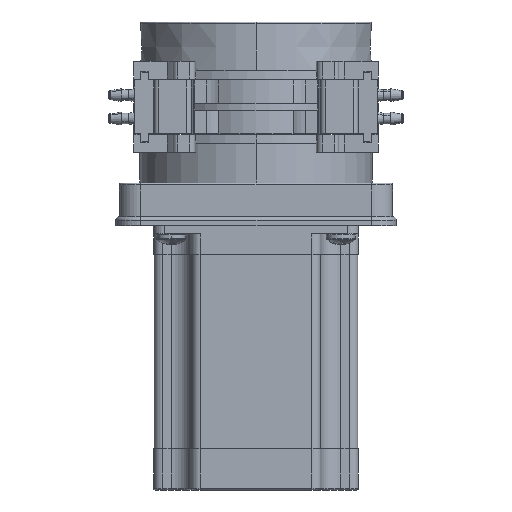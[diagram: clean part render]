
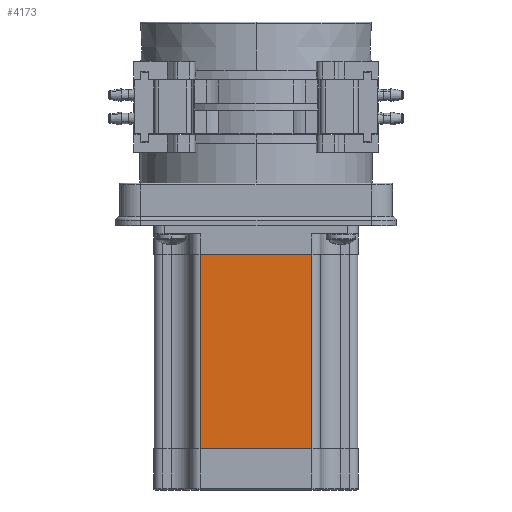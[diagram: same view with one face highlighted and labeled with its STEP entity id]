
A CAD part, left-side view. The second image highlights one B-rep face of the part: STEP entity #4173.
In plain terms, the highlighted planar face has unit normal (-1, 0, 0).
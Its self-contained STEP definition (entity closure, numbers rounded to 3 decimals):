
#91 = VERTEX_POINT ( 'NONE', #5619 ) ;
#642 = LINE ( 'NONE', #3524, #22458 ) ;
#1582 = VERTEX_POINT ( 'NONE', #17497 ) ;
#2924 = VECTOR ( 'NONE', #13008, 1000. ) ;
#3524 = CARTESIAN_POINT ( 'NONE',  ( -28.3, 15.57, 50.01 ) ) ;
#3864 = VERTEX_POINT ( 'NONE', #8132 ) ;
#3882 = CARTESIAN_POINT ( 'NONE',  ( -28.3, -15.57, 50.01 ) ) ;
#4173 = ADVANCED_FACE ( 'NONE', ( #9715 ), #21906, .T. ) ;
#4767 = ORIENTED_EDGE ( 'NONE', *, *, #20693, .T. ) ;
#5619 = CARTESIAN_POINT ( 'NONE',  ( -28.3, 15.57, -95.1 ) ) ;
#5979 = ORIENTED_EDGE ( 'NONE', *, *, #6533, .T. ) ;
#6301 = LINE ( 'NONE', #3882, #11263 ) ;
#6470 = DIRECTION ( 'NONE',  ( 0., 1., 0. ) ) ;
#6533 = EDGE_CURVE ( 'NONE', #1582, #91, #642, .T. ) ;
#6651 = VERTEX_POINT ( 'NONE', #8210 ) ;
#7150 = EDGE_CURVE ( 'NONE', #6651, #91, #14188, .T. ) ;
#7159 = CARTESIAN_POINT ( 'NONE',  ( -28.3, -15.57, 50.01 ) ) ;
#8132 = CARTESIAN_POINT ( 'NONE',  ( -28.3, -15.57, -41.1 ) ) ;
#8210 = CARTESIAN_POINT ( 'NONE',  ( -28.3, -15.57, -95.1 ) ) ;
#8479 = ORIENTED_EDGE ( 'NONE', *, *, #23790, .F. ) ;
#9715 = FACE_OUTER_BOUND ( 'NONE', #12227, .T. ) ;
#10693 = VECTOR ( 'NONE', #6470, 1000. ) ;
#11263 = VECTOR ( 'NONE', #12774, 1000. ) ;
#11401 = DIRECTION ( 'NONE',  ( 0., 0., 1. ) ) ;
#12227 = EDGE_LOOP ( 'NONE', ( #4767, #5979, #20278, #8479 ) ) ;
#12774 = DIRECTION ( 'NONE',  ( 0., 0., -1. ) ) ;
#13008 = DIRECTION ( 'NONE',  ( 0., 1., 0. ) ) ;
#14188 = LINE ( 'NONE', #17132, #2924 ) ;
#16101 = AXIS2_PLACEMENT_3D ( 'NONE', #7159, #24029, #11401 ) ;
#16200 = DIRECTION ( 'NONE',  ( 0., 0., -1. ) ) ;
#16933 = LINE ( 'NONE', #19090, #10693 ) ;
#17132 = CARTESIAN_POINT ( 'NONE',  ( -28.3, -15.57, -95.1 ) ) ;
#17497 = CARTESIAN_POINT ( 'NONE',  ( -28.3, 15.57, -41.1 ) ) ;
#19090 = CARTESIAN_POINT ( 'NONE',  ( -28.3, -15.57, -41.1 ) ) ;
#20278 = ORIENTED_EDGE ( 'NONE', *, *, #7150, .F. ) ;
#20693 = EDGE_CURVE ( 'NONE', #3864, #1582, #16933, .T. ) ;
#21906 = PLANE ( 'NONE',  #16101 ) ;
#22458 = VECTOR ( 'NONE', #16200, 1000. ) ;
#23790 = EDGE_CURVE ( 'NONE', #3864, #6651, #6301, .T. ) ;
#24029 = DIRECTION ( 'NONE',  ( -1., 0., 0. ) ) ;
